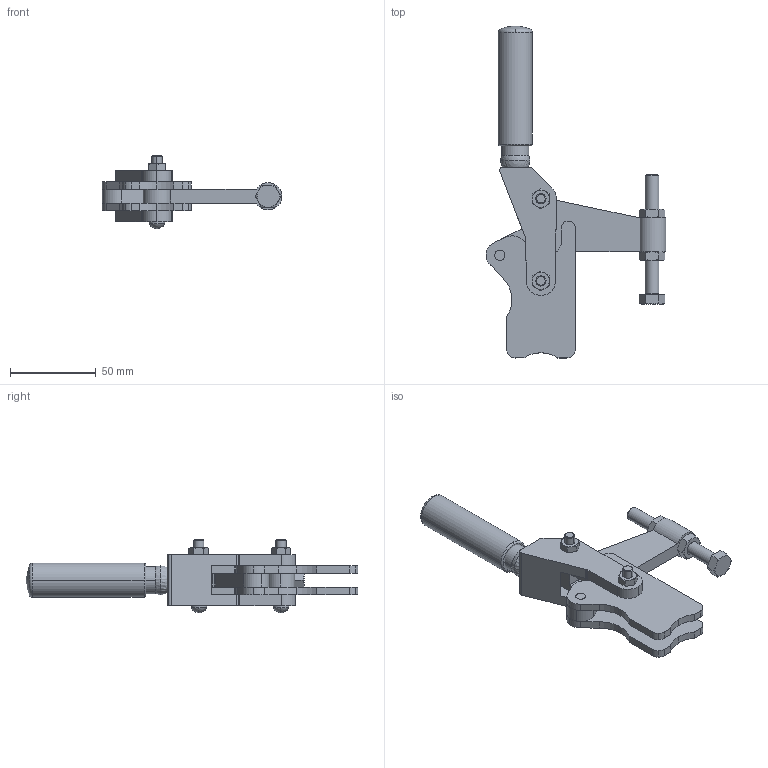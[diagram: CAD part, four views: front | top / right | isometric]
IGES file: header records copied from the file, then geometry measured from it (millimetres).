
Start section:  Level              Description ========  ================================        1  SANDFIELD
Global section: file name: D:/WORK/SANDFIELD/sandfield_3d/Vertical_Action/HEAVY_DUTY/M18/M18S.IGS; native system: AutoCAD-13_c4a_Mh (HwLock) (Microsoft Windows NT Version 4.0 (x86)); preprocessor: AutoCAD IGES Translator R13.1c2 (Jan 23 1997) from Autodesk, Inc.; author: ProCAD; organization: Sandfield Eng Co.; date: 990520.143123; units: millimetre
Bounding box: 105 x 194 x 43 mm (x, y, z)
Volume: 120768.1 mm3; surface area: 50775.8 mm2
Topology: 17 solids, 17 shells, 301 faces, 735 edges, 468 vertices
Faces by surface type: plane 103, cylinder 102, bspline 70, cone 14, sphere 8, torus 4
